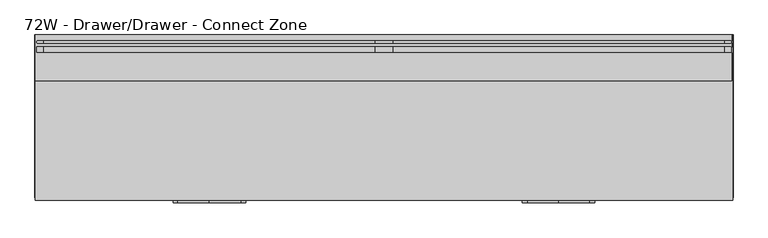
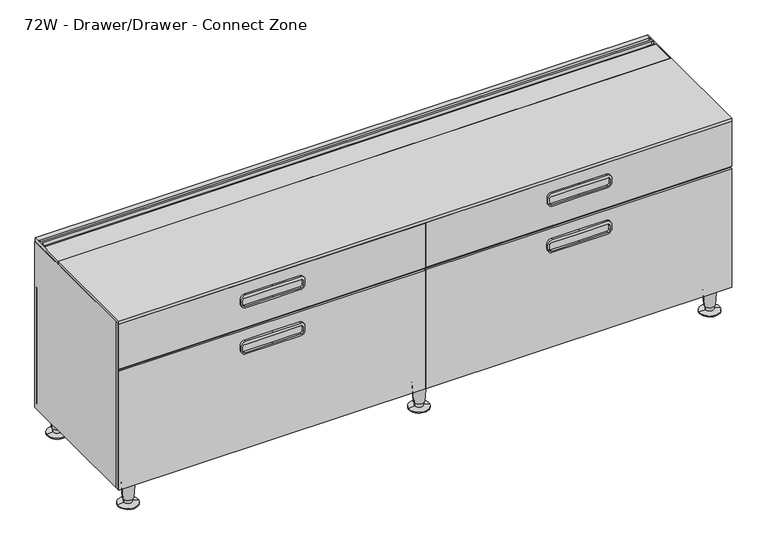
"""IFC4 building model written with IfcOpenShell, lengths in millimetres: furniture geometry, Steelcase - C Scape - Low Storage - 1.5 High - 60W and 72W : 72W - Drawer/Drawer - Connect Zone."""

from ifc_helpers import new_model, si_unit, point, frame, frame_2d, origin, place, context, project, spatial, polyline, circle_curve, trimmed, segment, composite_curve, outline, extrude, faceted_brep, source, transform, mapped, element, save
from ifc_brep_helpers import plane_surface, cylinder_surface, revolved_surface, advanced_brep


def furniture_72w_drawer_drawer_connect_zone_5f02e752(model_context):
    return source(origin(), model_context, "Body", "SolidModel", [
        advanced_brep(
        [(-302.0173728, -29.5783496, 599.4426137), (-302.0173728, -29.5783496, 458.7801967), (-302.0173728, -9.5194193, 458.7801967), (-302.0173728, -9.5194193, 466.2604814), (-302.0173728, 0.0055807, 466.2604814), (-302.0173728, 0.0055807, 599.4426137), (-302.0173728, -17.0388453, 599.4426137), (-302.0173728, -17.0388453, 609.5926846), (-302.0173728, -20.5059237, 609.5926846), (-302.0173728, -20.5059237, 599.4426137), (-302.0173728, -46.4703418, 599.4426137), (-302.0173728, -32.0458511, 599.4426137), (-302.0173728, -32.0458511, 609.5926846), (-302.0173728, -46.4703418, 609.5926846), (-304.8013237, -120.6444193, 599.4426137), (-304.8013237, -120.6444193, 609.5926846), (-304.8013237, 0.0055807, 609.5926846), (-304.8013237, 0.0055807, 466.2604814), (-304.8013237, -9.5194193, 466.2604814), (-304.8013237, -9.5194193, 458.7801967), (-304.8013237, -29.5783496, 458.7801967), (-304.8013237, -29.5783496, 599.4426137), (-299.2329352, -23.2903613, 599.4426137), (1516.9507358, -23.2903613, 599.4426137), (1519.9272317, -20.3138654, 599.4426137), (1519.9473728, -32.274699, 599.4426137), (1517.2308823, -29.5783496, 599.4426137), (-299.5498713, -29.5783496, 599.4426137), (1519.9473728, -46.4703418, 599.4426137), (1519.9473728, -120.5681445, 599.4426137), (-299.3205978, -14.3420703, 599.4426137), (1519.9473728, 0.0, 599.4426137), (1519.9473728, -17.0388453, 599.4426137), (1517.2505978, -14.3420703, 599.4426137), (1519.9473728, 0.0055807, 609.5926846), (1519.9473728, -120.5681445, 609.5926846), (1519.9473728, -46.4703418, 609.5926846), (-299.5498713, -29.5783496, 609.5926846), (1517.2308823, -29.5783496, 609.5926846), (1519.9272317, -32.274699, 609.5926846), (1519.9473728, -20.3138654, 609.5926846), (1516.9507358, -23.2903613, 609.5926846), (-299.2329352, -23.2903613, 609.5926846), (-299.3205978, -14.3420703, 609.5926846), (1517.2505978, -14.3420703, 609.5926846), (1519.9473728, -17.0388453, 609.5926846)],
        [
            (0, 1),
            (1, 2),
            (2, 3),
            (3, 4),
            (4, 5),
            (5, 6),
            (6, 7),
            (7, 8),
            (8, 9),
            (9, 0),
            (10, 11),
            (11, 12),
            (12, 13),
            (13, 10),
            (14, 15),
            (15, 16),
            (16, 17),
            (17, 18),
            (18, 19),
            (19, 20),
            (20, 21),
            (21, 14),
            (21, 0),
            (9, 22, circle_curve(frame((-299.2329352, -20.5059237, 599.4426137), z_axis=(0.0, 0.0, 1.0), x_axis=(1.0, 0.0, 0.0)), 2.7844376)),
            (22, 23),
            (23, 24, circle_curve(frame((1516.9507358, -20.3138654, 599.4426137), z_axis=(0.0, 0.0, 1.0), x_axis=(1.0, 0.0, 0.0)), 2.9764959)),
            (24, 25),
            (25, 26, circle_curve(frame((1517.2308823, -32.274699, 599.4426137), z_axis=(0.0, 0.0, 1.0), x_axis=(1.0, 0.0, 0.0)), 2.6963494)),
            (26, 27),
            (27, 11, circle_curve(frame((-299.5498713, -32.0458511, 599.4426137), z_axis=(0.0, 0.0, 1.0), x_axis=(1.0, 0.0, 0.0)), 2.4675015)),
            (10, 28),
            (28, 29),
            (29, 14),
            (30, 6, circle_curve(frame((-299.3205978, -17.0388453, 599.4426137), z_axis=(0.0, 0.0, 1.0), x_axis=(1.0, 0.0, 0.0)), 2.696775)),
            (5, 31),
            (31, 32),
            (32, 33, circle_curve(frame((1517.2505978, -17.0388453, 599.4426137), z_axis=(0.0, 0.0, 1.0), x_axis=(1.0, 0.0, 0.0)), 2.696775)),
            (33, 30),
            (20, 1),
            (19, 2),
            (18, 3),
            (17, 4),
            (16, 34),
            (34, 31),
            (15, 35),
            (35, 36),
            (36, 13),
            (12, 37, circle_curve(frame((-299.5498713, -32.0458511, 609.5926846), z_axis=(0.0, 0.0, -1.0), x_axis=(1.0, 0.0, 0.0)), 2.4675015)),
            (37, 38),
            (38, 39, circle_curve(frame((1517.2308823, -32.274699, 609.5926846), z_axis=(0.0, 0.0, -1.0), x_axis=(1.0, 0.0, 0.0)), 2.6963494)),
            (39, 40),
            (40, 41, circle_curve(frame((1516.9507358, -20.3138654, 609.5926846), z_axis=(0.0, 0.0, -1.0), x_axis=(1.0, 0.0, 0.0)), 2.9764959)),
            (41, 42),
            (42, 8, circle_curve(frame((-299.2329352, -20.5059237, 609.5926846), z_axis=(0.0, 0.0, -1.0), x_axis=(1.0, 0.0, 0.0)), 2.7844376)),
            (7, 43, circle_curve(frame((-299.3205978, -17.0388453, 609.5926846), z_axis=(0.0, 0.0, -1.0), x_axis=(1.0, 0.0, 0.0)), 2.696775)),
            (43, 44),
            (44, 45, circle_curve(frame((1517.2505978, -17.0388453, 609.5926846), z_axis=(0.0, 0.0, -1.0), x_axis=(1.0, 0.0, 0.0)), 2.696775)),
            (45, 34),
            (29, 35),
            (38, 26),
            (25, 39),
            (24, 40),
            (23, 41),
            (22, 42),
            (27, 37),
            (36, 28),
            (43, 30),
            (33, 44),
            (32, 45),
        ],
        [
            plane_surface(frame((-302.0173728, -120.6444193, 599.4426137), z_axis=(1.0, 0.0, 0.0), x_axis=(0.0, 1.0, 0.0))),
            plane_surface(frame((-304.8013237, -120.6444193, 599.4426137), z_axis=(-1.0, 0.0, 0.0), x_axis=(0.0, -1.0, 0.0))),
            plane_surface(frame((-302.0173728, -120.6444193, 599.4426137), z_axis=(0.0, 0.0, -1.0), x_axis=(-1.0, 0.0, 0.0))),
            plane_surface(frame((-302.0173728, -29.5783496, 599.4426137), z_axis=(0.0, -1.0, 0.0), x_axis=(-1.0, 0.0, 0.0))),
            plane_surface(frame((-302.0173728, -29.5783496, 458.7801967), z_axis=(0.0, 0.0, -1.0), x_axis=(-1.0, 0.0, 0.0))),
            plane_surface(frame((-302.0173728, -9.5194193, 458.7801967), z_axis=(0.0, 1.0, 0.0), x_axis=(-1.0, 0.0, 0.0))),
            plane_surface(frame((-302.0173728, -9.5194193, 466.2604814), z_axis=(0.0, 0.0, -1.0), x_axis=(-1.0, 0.0, 0.0))),
            plane_surface(frame((-302.0173728, 0.0055807, 466.2604814), z_axis=(0.0, 1.0, 0.0), x_axis=(-1.0, 0.0, 0.0))),
            plane_surface(frame((-302.0173728, 0.0055807, 609.5926846), z_axis=(0.0, 0.0, 1.0), x_axis=(-1.0, 0.0, 0.0))),
            plane_surface(frame((-302.0173728, -120.6444193, 609.5926846), z_axis=(0.0, -1.0, 0.0), x_axis=(-1.0, 0.0, 0.0))),
            revolved_surface(polyline([(1519.9272317, -32.274699, 599.4426137), (1519.9272317, -32.274699, 609.5926846)]), (1517.2308823, -32.274699, 599.4426137), (0.0, 0.0, -1.0)),
            plane_surface(frame((1519.9473728, -32.274699, 609.5926846), z_axis=(1.0, 0.0, 0.0), x_axis=(0.0, 0.0, -1.0))),
            revolved_surface(polyline([(1519.9272317, -20.3138654, 599.4426137), (1519.9272317, -20.3138654, 609.5926846)]), (1516.9507358, -20.3138654, 599.4426137), (0.0, 0.0, -1.0)),
            plane_surface(frame((1516.9507358, -23.2903613, 609.5926846), z_axis=(0.0, 1.0, 0.0), x_axis=(0.0, 0.0, -1.0))),
            revolved_surface(polyline([(-296.4484976, -20.5059237, 599.4426137), (-296.4484976, -20.5059237, 609.5926846)]), (-299.2329352, -20.5059237, 599.4426137), (0.0, 0.0, -1.0)),
            revolved_surface(polyline([(-297.0823698, -32.0458511, 599.4426137), (-297.0823698, -32.0458511, 609.5926846)]), (-299.5498713, -32.0458511, 599.4426137), (0.0, 0.0, -1.0)),
            plane_surface(frame((-299.5498713, -29.5783496, 609.5926846), z_axis=(0.0, -1.0, 0.0), x_axis=(0.0, 0.0, -1.0))),
            plane_surface(frame((1519.9473728, -46.4703418, 609.5926846), z_axis=(0.0, 1.0, 0.0), x_axis=(0.0, 0.0, -1.0))),
            plane_surface(frame((1519.9473728, -120.5681445, 609.5926846), z_axis=(1.0, 0.0, 0.0), x_axis=(0.0, 0.0, -1.0))),
            plane_surface(frame((-299.3205978, -14.3420703, 609.5926846), z_axis=(0.0, -1.0, 0.0), x_axis=(0.0, 0.0, -1.0))),
            revolved_surface(polyline([(1519.9473727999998, -17.0388453, 599.4426137), (1519.9473727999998, -17.0388453, 609.5926846)]), (1517.2505978, -17.0388453, 41.6222656), (0.0, 0.0, -1.0)),
            plane_surface(frame((1519.9473728, -17.0388453, 609.5926846), z_axis=(1.0, 0.0, 0.0), x_axis=(0.0, 0.0, -1.0))),
            revolved_surface(polyline([(-296.62382279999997, -17.0388453, 599.4426137), (-296.62382279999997, -17.0388453, 609.5926846)]), (-299.3205978, -17.0388453, 41.6222656), (0.0, 0.0, -1.0)),
        ],
        [
            (0, [[1, 2, 3, 4, 5, 6, 7, 8, 9, 10]]),
            (0, [[11, 12, 13, 14]]),
            (1, [[15, 16, 17, 18, 19, 20, 21, 22]]),
            (2, [[-22, 23, -10, 24, 25, 26, 27, 28, 29, 30, -11, 31, 32, 33]]),
            (2, [[34, -6, 35, 36, 37, 38]]),
            (3, [[-1, -23, -21, 39]]),
            (4, [[-2, -39, -20, 40]]),
            (5, [[-3, -40, -19, 41]]),
            (6, [[-4, -41, -18, 42]]),
            (7, [[-17, 43, 44, -35, -5, -42]]),
            (8, [[-43, -16, 45, 46, 47, -13, 48, 49, 50, 51, 52, 53, 54, -8, 55, 56, 57, 58]]),
            (9, [[-45, -15, -33, 59]]),
            (10, [[-50, 60, -28, 61]]),
            (11, [[-51, -61, -27, 62]]),
            (12, [[-52, -62, -26, 63]]),
            (13, [[-53, -63, -25, 64]]),
            (14, [[-54, -64, -24, -9]]),
            (15, [[-48, -12, -30, 65]]),
            (16, [[-49, -65, -29, -60]]),
            (17, [[-47, 66, -31, -14]]),
            (18, [[-46, -59, -32, -66]]),
            (19, [[-56, 67, -38, 68]]),
            (20, [[-57, -68, -37, 69]]),
            (21, [[-58, -69, -36, -44]]),
            (22, [[-55, -7, -34, -67]]),
        ],
    ),
        extrude(outline(polyline([(458.7240097, 724.5950189), (432.6382043, 724.5950189), (432.6382043, 602.2975), (432.6382043, 493.3349811), (458.7240097, 493.3349811), (458.7240097, -304.8013237), (92.7100024, -304.8013237), (92.7100024, 1522.73), (458.7240097, 1522.73), (458.7240097, 724.5950189)])), frame((0.0, -9.5194193, 0.0), z_axis=(0.0, 1.0, 0.0), x_axis=(0.0, 0.0, 1.0)), (0.0, 0.0, 1.0), 9.525),
        extrude(outline(polyline([(-120.6444193, 609.6), (-120.6444193, 450.8499879), (-126.9863574, 450.8499879), (-126.9863574, 599.4499291), (-433.07, 599.4499291), (-433.07, 609.6), (-120.6444193, 609.6)])), frame((-304.8013237, 0.0, 0.0), z_axis=(1.0, 0.0, 0.0), x_axis=(0.0, 1.0, 0.0)), (0.0, 0.0, 1.0), 1827.5313237),
        extrude(outline(polyline([(-120.6444193, 599.4426137), (-120.6444193, 609.5926846), (0.0055807, 609.5926846), (0.0055807, 466.2604814), (-9.5194193, 466.2604814), (-9.5194193, 458.7801967), (-29.5783496, 458.7801967), (-29.5783496, 599.4426137), (-120.6444193, 599.4426137)])), frame((1519.9473728, 0.0, 0.0), z_axis=(1.0, 0.0, 0.0), x_axis=(0.0, 1.0, 0.0)), (0.0, 0.0, 1.0), 2.7826272),
        extrude(outline(polyline([(76.1508625, -305.435), (76.1508625, 1523.365), (599.4400097, 1523.365), (599.4400097, 609.532594), (599.4400097, -305.435), (76.1508625, -305.435)]), holes=[polyline([(92.7100024, 600.0410976), (92.7100024, -283.4617676), (436.8800097, -283.4617676), (436.8800097, 600.0410976), (92.7100024, 600.0410976)]), polyline([(588.9625, -283.4617676), (588.9625, 600.0410976), (458.7240097, 600.0410976), (458.7240097, -283.4617676), (588.9625, -283.4617676)]), polyline([(436.8800097, 617.8889024), (436.8800097, 1501.3917676), (92.7100024, 1501.3917676), (92.7100024, 617.8889024), (436.8800097, 617.8889024)]), polyline([(588.9625, 1501.3917676), (458.7240097, 1501.3917676), (458.7240097, 617.8889024), (588.9625, 617.8889024), (588.9625, 1501.3917676)])]), frame((0.0, -426.7186111, 0.0), z_axis=(0.0, 1.0, 0.0), x_axis=(0.0, 0.0, 1.0)), (0.0, 0.0, 1.0), 7.3648883),
        extrude(outline(polyline([(1523.365, 0.0), (1523.365, -419.3537227), (1501.3917676, -419.3537227), (1501.3917676, 0.0), (1523.365, 0.0)])), frame((0.0, 0.0, 76.2), z_axis=(0.0, 0.0, 1.0), x_axis=(1.0, 0.0, 0.0)), (0.0, 0.0, 1.0), 523.2400097),
        extrude(outline(polyline([(-283.4630912, -419.3537227), (-305.435, -419.3537227), (-305.435, 0.0), (-283.4630912, 0.0), (-283.4630912, -419.3537227)])), frame((0.0, 0.0, 76.2), z_axis=(0.0, 0.0, 1.0), x_axis=(1.0, 0.0, 0.0)), (0.0, 0.0, 1.0), 523.2400097),
        extrude(outline(polyline([(586.4224874, -415.2912402), (586.4224874, -9.525), (631.5075126, -9.525), (631.5075126, -415.2912402), (586.4224874, -415.2912402)])), frame((0.0, 0.0, 76.2), z_axis=(0.0, 0.0, 1.0), x_axis=(1.0, 0.0, 0.0)), (0.0, 0.0, 1.0), 523.2400097),
        extrude(outline(polyline([(631.5075126, -9.525), (1501.3917676, -9.525), (1501.3917676, -415.2912402), (631.5075126, -415.2912402), (631.5075126, -9.525)])), frame((0.0, 0.0, 436.8800097), z_axis=(0.0, 0.0, 1.0), x_axis=(1.0, 0.0, 0.0)), (0.0, 0.0, 1.0), 21.844),
        extrude(outline(polyline([(586.4224874, -415.2912402), (-283.4617676, -415.2912402), (-283.4617676, -9.525), (586.4224874, -9.525), (586.4224874, -415.2912402)])), frame((0.0, 0.0, 436.8800097), z_axis=(0.0, 0.0, 1.0), x_axis=(1.0, 0.0, 0.0)), (0.0, 0.0, 1.0), 21.844),
        extrude(outline(composite_curve([segment(polyline([(419.0999879, 233.6804108), (419.0999879, 151.447655), (419.0999879, 69.2148993)]), True, "CONTINUOUS"), segment(trimmed(circle_curve(frame_2d((406.3999879, 69.2148993)), 12.7), [point((419.0999879, 69.2148993))], [point((406.3999879, 56.5148993))], False, "CARTESIAN"), True, "CONTINUOUS"), segment(polyline([(406.3999879, 56.5148993), (391.795017, 56.5148993)]), True, "CONTINUOUS"), segment(trimmed(circle_curve(frame_2d((391.795017, 69.2148993)), 12.7), [point((391.795017, 56.5148993))], [point((379.095017, 69.2148993))], False, "CARTESIAN"), True, "CONTINUOUS"), segment(polyline([(379.095017, 69.2148993), (379.095017, 151.447655), (379.095017, 233.6804108)]), True, "CONTINUOUS"), segment(trimmed(circle_curve(frame_2d((391.795017, 233.6804108)), 12.7), [point((379.095017, 233.6804108))], [point((391.795017, 246.3804108))], False, "CARTESIAN"), True, "CONTINUOUS"), segment(polyline([(391.795017, 246.3804108), (406.3999879, 246.3804108)]), True, "CONTINUOUS"), segment(trimmed(circle_curve(frame_2d((406.3999879, 233.6804108)), 12.7), [point((406.3999879, 246.3804108))], [point((419.0999879, 233.6804108))], False, "CARTESIAN"), True, "CONTINUOUS")], self_intersect=False), holes=[composite_curve([segment(polyline([(402.9710063, 241.5527985), (390.2709942, 241.5527985)]), True, "CONTINUOUS"), segment(trimmed(circle_curve(frame_2d((390.2709942, 235.2027985)), 6.35), [point((390.2709942, 241.5527985))], [point((383.9209942, 235.2027985))], True, "CARTESIAN"), True, "CONTINUOUS"), segment(polyline([(383.9209942, 235.2027985), (383.9209942, 151.447655), (383.9209942, 67.6925116)]), True, "CONTINUOUS"), segment(trimmed(circle_curve(frame_2d((390.2709942, 67.6925116)), 6.35), [point((383.9209942, 67.6925116))], [point((390.2709942, 61.3425116))], True, "CARTESIAN"), True, "CONTINUOUS"), segment(polyline([(390.2709942, 61.3425116), (402.9710063, 61.3425116)]), True, "CONTINUOUS"), segment(trimmed(circle_curve(frame_2d((402.9710063, 67.6925116)), 6.35), [point((402.9710063, 61.3425116))], [point((409.3210063, 67.6925116))], True, "CARTESIAN"), True, "CONTINUOUS"), segment(polyline([(409.3210063, 67.6925116), (409.3210063, 151.447655), (409.3210063, 235.2027985)]), True, "CONTINUOUS"), segment(trimmed(circle_curve(frame_2d((402.9710063, 235.2027985)), 6.35), [point((409.3210063, 235.2027985))], [point((402.9710063, 241.5527985))], True, "CARTESIAN"), True, "CONTINUOUS")], self_intersect=False)]), frame((0.0, -439.42, 0.0), z_axis=(0.0, 1.0, 0.0), x_axis=(0.0, 0.0, 1.0)), (0.0, 0.0, 1.0), 6.35),
        extrude(outline(composite_curve([segment(trimmed(circle_curve(frame_2d((406.3999879, 983.9320892)), 12.7), [point((419.0999879, 983.9320892))], [point((406.3999879, 971.2320892))], False, "CARTESIAN"), True, "CONTINUOUS"), segment(polyline([(406.3999879, 971.2320892), (391.795017, 971.2320892)]), True, "CONTINUOUS"), segment(trimmed(circle_curve(frame_2d((391.795017, 983.9320892)), 12.7), [point((391.795017, 971.2320892))], [point((379.095017, 983.9320892))], False, "CARTESIAN"), True, "CONTINUOUS"), segment(polyline([(379.095017, 983.9320892), (379.095017, 1066.164845), (379.095017, 1148.3976007)]), True, "CONTINUOUS"), segment(trimmed(circle_curve(frame_2d((391.795017, 1148.3976007)), 12.7), [point((379.095017, 1148.3976007))], [point((391.795017, 1161.0976007))], False, "CARTESIAN"), True, "CONTINUOUS"), segment(polyline([(391.795017, 1161.0976007), (406.3999879, 1161.0976007)]), True, "CONTINUOUS"), segment(trimmed(circle_curve(frame_2d((406.3999879, 1148.3976007)), 12.7), [point((406.3999879, 1161.0976007))], [point((419.0999879, 1148.3976007))], False, "CARTESIAN"), True, "CONTINUOUS"), segment(polyline([(419.0999879, 1148.3976007), (419.0999879, 1066.164845), (419.0999879, 983.9320892)]), True, "CONTINUOUS")], self_intersect=False), holes=[composite_curve([segment(trimmed(circle_curve(frame_2d((402.9710063, 982.4097015)), 6.35), [point((402.9710063, 976.0597015))], [point((409.3210063, 982.4097015))], True, "CARTESIAN"), True, "CONTINUOUS"), segment(polyline([(409.3210063, 982.4097015), (409.3210063, 1066.164845), (409.3210063, 1149.9199884)]), True, "CONTINUOUS"), segment(trimmed(circle_curve(frame_2d((402.9710063, 1149.9199884)), 6.35), [point((409.3210063, 1149.9199884))], [point((402.9710063, 1156.2699884))], True, "CARTESIAN"), True, "CONTINUOUS"), segment(polyline([(402.9710063, 1156.2699884), (390.2709942, 1156.2699884)]), True, "CONTINUOUS"), segment(trimmed(circle_curve(frame_2d((390.2709942, 1149.9199884)), 6.35), [point((390.2709942, 1156.2699884))], [point((383.9209942, 1149.9199884))], True, "CARTESIAN"), True, "CONTINUOUS"), segment(polyline([(383.9209942, 1149.9199884), (383.9209942, 1066.164845), (383.9209942, 982.4097015)]), True, "CONTINUOUS"), segment(trimmed(circle_curve(frame_2d((390.2709942, 982.4097015)), 6.35), [point((383.9209942, 982.4097015))], [point((390.2709942, 976.0597015))], True, "CARTESIAN"), True, "CONTINUOUS"), segment(polyline([(390.2709942, 976.0597015), (402.9710063, 976.0597015)]), True, "CONTINUOUS")], self_intersect=False)]), frame((0.0, -439.42, 0.0), z_axis=(0.0, 1.0, 0.0), x_axis=(0.0, 0.0, 1.0)), (0.0, 0.0, 1.0), 6.35),
        extrude(outline(polyline([(608.3303101, -426.7186111), (608.3303101, -433.07), (-304.8, -433.07), (-304.8, -426.7186111), (608.3303101, -426.7186111)])), frame((0.0, 0.0, 458.7240097), z_axis=(0.0, 0.0, 1.0), x_axis=(1.0, 0.0, 0.0)), (0.0, 0.0, 1.0), 140.716),
        extrude(outline(polyline([(609.5996899, -426.7186111), (1522.73, -426.7186111), (1522.73, -433.07), (609.5996899, -433.07), (609.5996899, -426.7186111)])), frame((0.0, 0.0, 458.7240097), z_axis=(0.0, 0.0, 1.0), x_axis=(1.0, 0.0, 0.0)), (0.0, 0.0, 1.0), 140.716),
        faceted_brep([(-283.4617676, -419.3537227, 92.7100024), (1501.3917676, -419.3537227, 92.7100024), (1501.3917676, -9.525, 92.7100024), (631.5075126, -9.525, 92.7100024), (631.5075126, -415.2912402, 92.7100024), (586.4224874, -415.2912402, 92.7100024), (586.4224874, -9.525, 92.7100024), (-283.4617676, -9.525, 92.7100024), (1523.365, 0.0, 76.2), (1523.365, -419.3537227, 76.2), (-305.435, -419.3537227, 76.2), (-305.435, 0.0, 76.2), (-283.4630912, -419.3537227, 599.4400097), (-305.435, -419.3537227, 599.4400097), (1523.365, -419.3537227, 599.4400097), (1501.3917676, -419.3537227, 599.4400097), (-305.435, 0.0, 599.4400097), (1523.365, 0.0, 599.4400097), (-283.4630912, -9.525, 599.4400097), (586.4224874, -9.525, 599.4400097), (586.4224874, -415.2912402, 599.4400097), (631.5075126, -415.2912402, 599.4400097), (631.5075126, -9.525, 599.4400097), (1501.3917676, -9.525, 599.4400097)], [[[0, 1, 2, 3, 4, 5, 6, 7]], [[8, 9, 10, 11]], [[1, 0, 12, 13, 10, 9, 14, 15]], [[8, 11, 16, 17]], [[16, 13, 12, 18, 19, 20, 21, 22, 23, 15, 14, 17]], [[13, 16, 11, 10]], [[18, 12, 0, 7]], [[19, 18, 7, 6]], [[20, 19, 6, 5]], [[22, 21, 4, 3]], [[23, 22, 3, 2]], [[15, 23, 2, 1]], [[17, 14, 9, 8]], [[21, 20, 5, 4]]]),
        extrude(outline(composite_curve([segment(polyline([(565.1499879, 233.6804108), (565.1499879, 151.447655), (565.1499879, 69.2148993)]), True, "CONTINUOUS"), segment(trimmed(circle_curve(frame_2d((552.4499879, 69.2148993)), 12.7), [point((565.1499879, 69.2148993))], [point((552.4499879, 56.5148993))], False, "CARTESIAN"), True, "CONTINUOUS"), segment(polyline([(552.4499879, 56.5148993), (537.845017, 56.5148993)]), True, "CONTINUOUS"), segment(trimmed(circle_curve(frame_2d((537.845017, 69.2148993)), 12.7), [point((537.845017, 56.5148993))], [point((525.145017, 69.2148993))], False, "CARTESIAN"), True, "CONTINUOUS"), segment(polyline([(525.145017, 69.2148993), (525.145017, 151.447655), (525.145017, 233.6804108)]), True, "CONTINUOUS"), segment(trimmed(circle_curve(frame_2d((537.845017, 233.6804108)), 12.7), [point((525.145017, 233.6804108))], [point((537.845017, 246.3804108))], False, "CARTESIAN"), True, "CONTINUOUS"), segment(polyline([(537.845017, 246.3804108), (552.4499879, 246.3804108)]), True, "CONTINUOUS"), segment(trimmed(circle_curve(frame_2d((552.4499879, 233.6804108)), 12.7), [point((552.4499879, 246.3804108))], [point((565.1499879, 233.6804108))], False, "CARTESIAN"), True, "CONTINUOUS")], self_intersect=False), holes=[composite_curve([segment(polyline([(549.0210063, 241.5527985), (536.3209942, 241.5527985)]), True, "CONTINUOUS"), segment(trimmed(circle_curve(frame_2d((536.3209942, 235.2027985)), 6.35), [point((536.3209942, 241.5527985))], [point((529.9709942, 235.2027985))], True, "CARTESIAN"), True, "CONTINUOUS"), segment(polyline([(529.9709942, 235.2027985), (529.9709942, 151.447655), (529.9709942, 67.6925116)]), True, "CONTINUOUS"), segment(trimmed(circle_curve(frame_2d((536.3209942, 67.6925116)), 6.35), [point((529.9709942, 67.6925116))], [point((536.3209942, 61.3425116))], True, "CARTESIAN"), True, "CONTINUOUS"), segment(polyline([(536.3209942, 61.3425116), (549.0210063, 61.3425116)]), True, "CONTINUOUS"), segment(trimmed(circle_curve(frame_2d((549.0210063, 67.6925116)), 6.35), [point((549.0210063, 61.3425116))], [point((555.3710063, 67.6925116))], True, "CARTESIAN"), True, "CONTINUOUS"), segment(polyline([(555.3710063, 67.6925116), (555.3710063, 151.447655), (555.3710063, 235.2027985)]), True, "CONTINUOUS"), segment(trimmed(circle_curve(frame_2d((549.0210063, 235.2027985)), 6.35), [point((555.3710063, 235.2027985))], [point((549.0210063, 241.5527985))], True, "CARTESIAN"), True, "CONTINUOUS")], self_intersect=False)]), frame((0.0, -439.42, 0.0), z_axis=(0.0, 1.0, 0.0), x_axis=(0.0, 0.0, 1.0)), (0.0, 0.0, 1.0), 6.35),
        extrude(outline(polyline([(608.3303101, -426.7186111), (608.3303101, -433.07), (-304.8, -433.07), (-304.8, -426.7186111), (608.3303101, -426.7186111)])), frame((0.0, 0.0, 76.2), z_axis=(0.0, 0.0, 1.0), x_axis=(1.0, 0.0, 0.0)), (0.0, 0.0, 1.0), 374.6500097),
        advanced_brep(
        [(579.8539515, -29.9489775, 0.0), (638.0760485, -38.8569507, 0.0), (608.965, -34.4029641, 0.0), (579.8539515, -29.9489775, 2.5119506), (638.0760485, -38.8569507, 2.5119506), (597.202835, -32.6033544, 5.7545598), (620.727165, -36.2025738, 5.7545598), (596.5140655, -32.4979728, 19.05), (621.4159345, -36.3079555, 19.05), (594.0844786, -32.1262463, 19.05), (623.8455214, -36.6796819, 19.05), (590.1341305, -31.5218435, 76.2), (627.7958695, -37.2840847, 76.2), (608.965, -34.4029641, 76.2)],
        [
            (0, 1, circle_curve(frame((608.965, -34.4029641, 0.0), z_axis=(0.0, 0.0, -1.0), x_axis=(0.0, -1.0, 0.0)), 29.4498071)),
            (1, 2),
            (2, 0),
            (1, 0, circle_curve(frame((608.965, -34.4029641, 0.0), z_axis=(0.0, 0.0, -1.0), x_axis=(0.0, -1.0, 0.0)), 29.4498071)),
            (3, 4, circle_curve(frame((608.965, -34.4029641, 2.5119506), z_axis=(0.0, 0.0, -1.0), x_axis=(0.0, -1.0, 0.0)), 29.4498071)),
            (4, 1),
            (0, 3),
            (4, 3, circle_curve(frame((608.965, -34.4029641, 2.5119506), z_axis=(0.0, 0.0, -1.0), x_axis=(0.0, -1.0, 0.0)), 29.4498071)),
            (5, 6, circle_curve(frame((608.965, -34.4029641, 5.7545598), z_axis=(0.0, 0.0, -1.0), x_axis=(0.0, -1.0, 0.0)), 11.8990387)),
            (6, 4),
            (3, 5),
            (6, 5, circle_curve(frame((608.965, -34.4029641, 5.7545598), z_axis=(0.0, 0.0, -1.0), x_axis=(0.0, -1.0, 0.0)), 11.8990387)),
            (7, 8, circle_curve(frame((608.965, -34.4029641, 19.05), z_axis=(0.0, 0.0, -1.0), x_axis=(0.0, -1.0, 0.0)), 12.5958232)),
            (8, 6),
            (5, 7),
            (8, 7, circle_curve(frame((608.965, -34.4029641, 19.05), z_axis=(0.0, 0.0, -1.0), x_axis=(0.0, -1.0, 0.0)), 12.5958232)),
            (9, 10, circle_curve(frame((608.965, -34.4029641, 19.05), z_axis=(0.0, 0.0, -1.0), x_axis=(0.0, -1.0, 0.0)), 15.0536827)),
            (10, 8),
            (7, 9),
            (10, 9, circle_curve(frame((608.965, -34.4029641, 19.05), z_axis=(0.0, 0.0, -1.0), x_axis=(0.0, -1.0, 0.0)), 15.0536827)),
            (11, 12, circle_curve(frame((608.965, -34.4029641, 76.2), z_axis=(0.0, 0.0, -1.0), x_axis=(0.0, -1.0, 0.0)), 19.05)),
            (12, 10),
            (9, 11),
            (12, 11, circle_curve(frame((608.965, -34.4029641, 76.2), z_axis=(0.0, 0.0, -1.0), x_axis=(0.0, -1.0, 0.0)), 19.05)),
            (13, 12),
            (11, 13),
        ],
        [
            plane_surface(frame((608.965, -34.4029641, 0.0), z_axis=(0.0, 0.0, -1.0), x_axis=(0.0, -1.0, 0.0))),
            cylinder_surface(frame((608.965, -34.4029641, 25.4), z_axis=(0.0, 0.0, 1.0), x_axis=(0.0, -1.0, 0.0)), 29.4498071),
            revolved_surface(polyline([(608.965, -63.8527712, 2.5119506), (608.965, -46.3020028, 5.7545598)]), (608.965, -34.4029641, 25.4), (0.0, 0.0, 1.0)),
            revolved_surface(polyline([(608.965, -46.3020028, 5.7545598), (608.965, -46.9987873, 19.05)]), (608.965, -34.4029641, 25.4), (0.0, 0.0, 1.0)),
            plane_surface(frame((608.965, -34.4029641, 19.05), z_axis=(0.0, 0.0, -1.0), x_axis=(0.0, -1.0, 0.0))),
            revolved_surface(polyline([(608.965, -49.4566468, 19.05), (608.965, -53.4529641, 76.2)]), (608.965, -34.4029641, 25.4), (0.0, 0.0, 1.0)),
            plane_surface(frame((608.965, -34.4029641, 76.2), z_axis=(0.0, 0.0, 1.0), x_axis=(0.0, -1.0, 0.0))),
        ],
        [
            (0, [[1, 2, 3]]),
            (0, [[4, -3, -2]]),
            (1, [[5, 6, -1, 7]]),
            (1, [[8, -7, -4, -6]]),
            (2, [[9, 10, -5, 11]]),
            (2, [[12, -11, -8, -10]]),
            (3, [[13, 14, -9, 15]]),
            (3, [[16, -15, -12, -14]]),
            (4, [[17, 18, -13, 19]]),
            (4, [[20, -19, -16, -18]]),
            (5, [[21, 22, -17, 23]]),
            (5, [[24, -23, -20, -22]]),
            (6, [[25, -21, 26]]),
            (6, [[-26, -24, -25]]),
        ],
    ),
        advanced_brep(
        [(579.8539515, -395.5974102, 0.0), (638.0760485, -404.5053834, 0.0), (608.965, -400.0513968, 0.0), (579.8539515, -395.5974102, 2.5119506), (638.0760485, -404.5053834, 2.5119506), (597.202835, -398.2517871, 5.7545598), (620.727165, -401.8510065, 5.7545598), (596.5140655, -398.1464055, 19.05), (621.4159345, -401.9563882, 19.05), (594.0844786, -397.774679, 19.05), (623.8455214, -402.3281146, 19.05), (590.1341305, -397.1702762, 76.2), (627.7958695, -402.9325174, 76.2), (608.965, -400.0513968, 76.2)],
        [
            (0, 1, circle_curve(frame((608.965, -400.0513968, 0.0), z_axis=(0.0, 0.0, -1.0), x_axis=(0.0, -1.0, 0.0)), 29.4498071)),
            (1, 2),
            (2, 0),
            (1, 0, circle_curve(frame((608.965, -400.0513968, 0.0), z_axis=(0.0, 0.0, -1.0), x_axis=(0.0, -1.0, 0.0)), 29.4498071)),
            (3, 4, circle_curve(frame((608.965, -400.0513968, 2.5119506), z_axis=(0.0, 0.0, -1.0), x_axis=(0.0, -1.0, 0.0)), 29.4498071)),
            (4, 1),
            (0, 3),
            (4, 3, circle_curve(frame((608.965, -400.0513968, 2.5119506), z_axis=(0.0, 0.0, -1.0), x_axis=(0.0, -1.0, 0.0)), 29.4498071)),
            (5, 6, circle_curve(frame((608.965, -400.0513968, 5.7545598), z_axis=(0.0, 0.0, -1.0), x_axis=(0.0, -1.0, 0.0)), 11.8990387)),
            (6, 4),
            (3, 5),
            (6, 5, circle_curve(frame((608.965, -400.0513968, 5.7545598), z_axis=(0.0, 0.0, -1.0), x_axis=(0.0, -1.0, 0.0)), 11.8990387)),
            (7, 8, circle_curve(frame((608.965, -400.0513968, 19.05), z_axis=(0.0, 0.0, -1.0), x_axis=(0.0, -1.0, 0.0)), 12.5958232)),
            (8, 6),
            (5, 7),
            (8, 7, circle_curve(frame((608.965, -400.0513968, 19.05), z_axis=(0.0, 0.0, -1.0), x_axis=(0.0, -1.0, 0.0)), 12.5958232)),
            (9, 10, circle_curve(frame((608.965, -400.0513968, 19.05), z_axis=(0.0, 0.0, -1.0), x_axis=(0.0, -1.0, 0.0)), 15.0536827)),
            (10, 8),
            (7, 9),
            (10, 9, circle_curve(frame((608.965, -400.0513968, 19.05), z_axis=(0.0, 0.0, -1.0), x_axis=(0.0, -1.0, 0.0)), 15.0536827)),
            (11, 12, circle_curve(frame((608.965, -400.0513968, 76.2), z_axis=(0.0, 0.0, -1.0), x_axis=(0.0, -1.0, 0.0)), 19.05)),
            (12, 10),
            (9, 11),
            (12, 11, circle_curve(frame((608.965, -400.0513968, 76.2), z_axis=(0.0, 0.0, -1.0), x_axis=(0.0, -1.0, 0.0)), 19.05)),
            (13, 12),
            (11, 13),
        ],
        [
            plane_surface(frame((608.965, -400.0513968, 0.0), z_axis=(0.0, 0.0, -1.0), x_axis=(0.0, -1.0, 0.0))),
            cylinder_surface(frame((608.965, -400.0513968, 25.4), z_axis=(0.0, 0.0, 1.0), x_axis=(0.0, -1.0, 0.0)), 29.4498071),
            revolved_surface(polyline([(608.965, -429.5012039, 2.5119506), (608.965, -411.9504355, 5.7545598)]), (608.965, -400.0513968, 25.4), (0.0, 0.0, 1.0)),
            revolved_surface(polyline([(608.965, -411.9504355, 5.7545598), (608.965, -412.64722, 19.05)]), (608.965, -400.0513968, 25.4), (0.0, 0.0, 1.0)),
            plane_surface(frame((608.965, -400.0513968, 19.05), z_axis=(0.0, 0.0, -1.0), x_axis=(0.0, -1.0, 0.0))),
            revolved_surface(polyline([(608.965, -415.1050795, 19.05), (608.965, -419.1013968, 76.2)]), (608.965, -400.0513968, 25.4), (0.0, 0.0, 1.0)),
            plane_surface(frame((608.965, -400.0513968, 76.2), z_axis=(0.0, 0.0, 1.0), x_axis=(0.0, -1.0, 0.0))),
        ],
        [
            (0, [[1, 2, 3]]),
            (0, [[4, -3, -2]]),
            (1, [[5, 6, -1, 7]]),
            (1, [[8, -7, -4, -6]]),
            (2, [[9, 10, -5, 11]]),
            (2, [[12, -11, -8, -10]]),
            (3, [[13, 14, -9, 15]]),
            (3, [[16, -15, -12, -14]]),
            (4, [[17, 18, -13, 19]]),
            (4, [[20, -19, -16, -18]]),
            (5, [[21, 22, -17, 23]]),
            (5, [[24, -23, -20, -22]]),
            (6, [[25, -21, 26]]),
            (6, [[-26, -24, -25]]),
        ],
    ),
        extrude(outline(composite_curve([segment(trimmed(circle_curve(frame_2d((552.4499879, 983.9320892)), 12.7), [point((565.1499879, 983.9320892))], [point((552.4499879, 971.2320892))], False, "CARTESIAN"), True, "CONTINUOUS"), segment(polyline([(552.4499879, 971.2320892), (537.845017, 971.2320892)]), True, "CONTINUOUS"), segment(trimmed(circle_curve(frame_2d((537.845017, 983.9320892)), 12.7), [point((537.845017, 971.2320892))], [point((525.145017, 983.9320892))], False, "CARTESIAN"), True, "CONTINUOUS"), segment(polyline([(525.145017, 983.9320892), (525.145017, 1066.164845), (525.145017, 1148.3976007)]), True, "CONTINUOUS"), segment(trimmed(circle_curve(frame_2d((537.845017, 1148.3976007)), 12.7), [point((525.145017, 1148.3976007))], [point((537.845017, 1161.0976007))], False, "CARTESIAN"), True, "CONTINUOUS"), segment(polyline([(537.845017, 1161.0976007), (552.4499879, 1161.0976007)]), True, "CONTINUOUS"), segment(trimmed(circle_curve(frame_2d((552.4499879, 1148.3976007)), 12.7), [point((552.4499879, 1161.0976007))], [point((565.1499879, 1148.3976007))], False, "CARTESIAN"), True, "CONTINUOUS"), segment(polyline([(565.1499879, 1148.3976007), (565.1499879, 1066.164845), (565.1499879, 983.9320892)]), True, "CONTINUOUS")], self_intersect=False), holes=[composite_curve([segment(trimmed(circle_curve(frame_2d((549.0210063, 982.4097015)), 6.35), [point((549.0210063, 976.0597015))], [point((555.3710063, 982.4097015))], True, "CARTESIAN"), True, "CONTINUOUS"), segment(polyline([(555.3710063, 982.4097015), (555.3710063, 1066.164845), (555.3710063, 1149.9199884)]), True, "CONTINUOUS"), segment(trimmed(circle_curve(frame_2d((549.0210063, 1149.9199884)), 6.35), [point((555.3710063, 1149.9199884))], [point((549.0210063, 1156.2699884))], True, "CARTESIAN"), True, "CONTINUOUS"), segment(polyline([(549.0210063, 1156.2699884), (536.3209942, 1156.2699884)]), True, "CONTINUOUS"), segment(trimmed(circle_curve(frame_2d((536.3209942, 1149.9199884)), 6.35), [point((536.3209942, 1156.2699884))], [point((529.9709942, 1149.9199884))], True, "CARTESIAN"), True, "CONTINUOUS"), segment(polyline([(529.9709942, 1149.9199884), (529.9709942, 1066.164845), (529.9709942, 982.4097015)]), True, "CONTINUOUS"), segment(trimmed(circle_curve(frame_2d((536.3209942, 982.4097015)), 6.35), [point((529.9709942, 982.4097015))], [point((536.3209942, 976.0597015))], True, "CARTESIAN"), True, "CONTINUOUS"), segment(polyline([(536.3209942, 976.0597015), (549.0210063, 976.0597015)]), True, "CONTINUOUS")], self_intersect=False)]), frame((0.0, -439.42, 0.0), z_axis=(0.0, 1.0, 0.0), x_axis=(0.0, 0.0, 1.0)), (0.0, 0.0, 1.0), 6.35),
        advanced_brep(
        [(1446.9075389, -29.9489775, 0.0), (1505.1296359, -38.8569507, 0.0), (1476.0185874, -34.4029641, 0.0), (1446.9075389, -29.9489775, 2.5119506), (1505.1296359, -38.8569507, 2.5119506), (1464.2564224, -32.6033544, 5.7545598), (1487.7807524, -36.2025738, 5.7545598), (1463.5676529, -32.4979728, 19.05), (1488.4695219, -36.3079555, 19.05), (1461.1380659, -32.1262463, 19.05), (1490.8991088, -36.6796819, 19.05), (1457.1877179, -31.5218435, 76.2), (1494.8494568, -37.2840847, 76.2), (1476.0185874, -34.4029641, 76.2)],
        [
            (0, 1, circle_curve(frame((1476.0185874, -34.4029641, 0.0), z_axis=(0.0, 0.0, -1.0), x_axis=(0.0, -1.0, 0.0)), 29.4498071)),
            (1, 2),
            (2, 0),
            (1, 0, circle_curve(frame((1476.0185874, -34.4029641, 0.0), z_axis=(0.0, 0.0, -1.0), x_axis=(0.0, -1.0, 0.0)), 29.4498071)),
            (3, 4, circle_curve(frame((1476.0185874, -34.4029641, 2.5119506), z_axis=(0.0, 0.0, -1.0), x_axis=(0.0, -1.0, 0.0)), 29.4498071)),
            (4, 1),
            (0, 3),
            (4, 3, circle_curve(frame((1476.0185874, -34.4029641, 2.5119506), z_axis=(0.0, 0.0, -1.0), x_axis=(0.0, -1.0, 0.0)), 29.4498071)),
            (5, 6, circle_curve(frame((1476.0185874, -34.4029641, 5.7545598), z_axis=(0.0, 0.0, -1.0), x_axis=(0.0, -1.0, 0.0)), 11.8990387)),
            (6, 4),
            (3, 5),
            (6, 5, circle_curve(frame((1476.0185874, -34.4029641, 5.7545598), z_axis=(0.0, 0.0, -1.0), x_axis=(0.0, -1.0, 0.0)), 11.8990387)),
            (7, 8, circle_curve(frame((1476.0185874, -34.4029641, 19.05), z_axis=(0.0, 0.0, -1.0), x_axis=(0.0, -1.0, 0.0)), 12.5958232)),
            (8, 6),
            (5, 7),
            (8, 7, circle_curve(frame((1476.0185874, -34.4029641, 19.05), z_axis=(0.0, 0.0, -1.0), x_axis=(0.0, -1.0, 0.0)), 12.5958232)),
            (9, 10, circle_curve(frame((1476.0185874, -34.4029641, 19.05), z_axis=(0.0, 0.0, -1.0), x_axis=(0.0, -1.0, 0.0)), 15.0536827)),
            (10, 8),
            (7, 9),
            (10, 9, circle_curve(frame((1476.0185874, -34.4029641, 19.05), z_axis=(0.0, 0.0, -1.0), x_axis=(0.0, -1.0, 0.0)), 15.0536827)),
            (11, 12, circle_curve(frame((1476.0185874, -34.4029641, 76.2), z_axis=(0.0, 0.0, -1.0), x_axis=(0.0, -1.0, 0.0)), 19.05)),
            (12, 10),
            (9, 11),
            (12, 11, circle_curve(frame((1476.0185874, -34.4029641, 76.2), z_axis=(0.0, 0.0, -1.0), x_axis=(0.0, -1.0, 0.0)), 19.05)),
            (13, 12),
            (11, 13),
        ],
        [
            plane_surface(frame((1476.0185874, -34.4029641, 0.0), z_axis=(0.0, 0.0, -1.0), x_axis=(0.0, -1.0, 0.0))),
            cylinder_surface(frame((1476.0185874, -34.4029641, 25.4), z_axis=(0.0, 0.0, 1.0), x_axis=(0.0, -1.0, 0.0)), 29.4498071),
            revolved_surface(polyline([(1476.0185874, -63.8527712, 2.5119506), (1476.0185874, -46.3020028, 5.7545598)]), (1476.0185874, -34.4029641, 25.4), (0.0, 0.0, 1.0)),
            revolved_surface(polyline([(1476.0185874, -46.3020028, 5.7545598), (1476.0185874, -46.9987873, 19.05)]), (1476.0185874, -34.4029641, 25.4), (0.0, 0.0, 1.0)),
            plane_surface(frame((1476.0185874, -34.4029641, 19.05), z_axis=(0.0, 0.0, -1.0), x_axis=(0.0, -1.0, 0.0))),
            revolved_surface(polyline([(1476.0185874, -49.4566468, 19.05), (1476.0185874, -53.4529641, 76.2)]), (1476.0185874, -34.4029641, 25.4), (0.0, 0.0, 1.0)),
            plane_surface(frame((1476.0185874, -34.4029641, 76.2), z_axis=(0.0, 0.0, 1.0), x_axis=(0.0, -1.0, 0.0))),
        ],
        [
            (0, [[1, 2, 3]]),
            (0, [[4, -3, -2]]),
            (1, [[5, 6, -1, 7]]),
            (1, [[8, -7, -4, -6]]),
            (2, [[9, 10, -5, 11]]),
            (2, [[12, -11, -8, -10]]),
            (3, [[13, 14, -9, 15]]),
            (3, [[16, -15, -12, -14]]),
            (4, [[17, 18, -13, 19]]),
            (4, [[20, -19, -16, -18]]),
            (5, [[21, 22, -17, 23]]),
            (5, [[24, -23, -20, -22]]),
            (6, [[25, -21, 26]]),
            (6, [[-26, -24, -25]]),
        ],
    ),
        advanced_brep(
        [(1446.9075389, -395.5974102, 0.0), (1505.1296359, -404.5053834, 0.0), (1476.0185874, -400.0513968, 0.0), (1446.9075389, -395.5974102, 2.5119506), (1505.1296359, -404.5053834, 2.5119506), (1464.2564224, -398.2517871, 5.7545598), (1487.7807524, -401.8510065, 5.7545598), (1463.5676529, -398.1464055, 19.05), (1488.4695219, -401.9563882, 19.05), (1461.1380659, -397.774679, 19.05), (1490.8991088, -402.3281146, 19.05), (1457.1877179, -397.1702762, 76.2), (1494.8494568, -402.9325174, 76.2), (1476.0185874, -400.0513968, 76.2)],
        [
            (0, 1, circle_curve(frame((1476.0185874, -400.0513968, 0.0), z_axis=(0.0, 0.0, -1.0), x_axis=(0.0, -1.0, 0.0)), 29.4498071)),
            (1, 2),
            (2, 0),
            (1, 0, circle_curve(frame((1476.0185874, -400.0513968, 0.0), z_axis=(0.0, 0.0, -1.0), x_axis=(0.0, -1.0, 0.0)), 29.4498071)),
            (3, 4, circle_curve(frame((1476.0185874, -400.0513968, 2.5119506), z_axis=(0.0, 0.0, -1.0), x_axis=(0.0, -1.0, 0.0)), 29.4498071)),
            (4, 1),
            (0, 3),
            (4, 3, circle_curve(frame((1476.0185874, -400.0513968, 2.5119506), z_axis=(0.0, 0.0, -1.0), x_axis=(0.0, -1.0, 0.0)), 29.4498071)),
            (5, 6, circle_curve(frame((1476.0185874, -400.0513968, 5.7545598), z_axis=(0.0, 0.0, -1.0), x_axis=(0.0, -1.0, 0.0)), 11.8990387)),
            (6, 4),
            (3, 5),
            (6, 5, circle_curve(frame((1476.0185874, -400.0513968, 5.7545598), z_axis=(0.0, 0.0, -1.0), x_axis=(0.0, -1.0, 0.0)), 11.8990387)),
            (7, 8, circle_curve(frame((1476.0185874, -400.0513968, 19.05), z_axis=(0.0, 0.0, -1.0), x_axis=(0.0, -1.0, 0.0)), 12.5958232)),
            (8, 6),
            (5, 7),
            (8, 7, circle_curve(frame((1476.0185874, -400.0513968, 19.05), z_axis=(0.0, 0.0, -1.0), x_axis=(0.0, -1.0, 0.0)), 12.5958232)),
            (9, 10, circle_curve(frame((1476.0185874, -400.0513968, 19.05), z_axis=(0.0, 0.0, -1.0), x_axis=(0.0, -1.0, 0.0)), 15.0536827)),
            (10, 8),
            (7, 9),
            (10, 9, circle_curve(frame((1476.0185874, -400.0513968, 19.05), z_axis=(0.0, 0.0, -1.0), x_axis=(0.0, -1.0, 0.0)), 15.0536827)),
            (11, 12, circle_curve(frame((1476.0185874, -400.0513968, 76.2), z_axis=(0.0, 0.0, -1.0), x_axis=(0.0, -1.0, 0.0)), 19.05)),
            (12, 10),
            (9, 11),
            (12, 11, circle_curve(frame((1476.0185874, -400.0513968, 76.2), z_axis=(0.0, 0.0, -1.0), x_axis=(0.0, -1.0, 0.0)), 19.05)),
            (13, 12),
            (11, 13),
        ],
        [
            plane_surface(frame((1476.0185874, -400.0513968, 0.0), z_axis=(0.0, 0.0, -1.0), x_axis=(0.0, -1.0, 0.0))),
            cylinder_surface(frame((1476.0185874, -400.0513968, 25.4), z_axis=(0.0, 0.0, 1.0), x_axis=(0.0, -1.0, 0.0)), 29.4498071),
            revolved_surface(polyline([(1476.0185874, -429.5012039, 2.5119506), (1476.0185874, -411.9504355, 5.7545598)]), (1476.0185874, -400.0513968, 25.4), (0.0, 0.0, 1.0)),
            revolved_surface(polyline([(1476.0185874, -411.9504355, 5.7545598), (1476.0185874, -412.64722, 19.05)]), (1476.0185874, -400.0513968, 25.4), (0.0, 0.0, 1.0)),
            plane_surface(frame((1476.0185874, -400.0513968, 19.05), z_axis=(0.0, 0.0, -1.0), x_axis=(0.0, -1.0, 0.0))),
            revolved_surface(polyline([(1476.0185874, -415.1050795, 19.05), (1476.0185874, -419.1013968, 76.2)]), (1476.0185874, -400.0513968, 25.4), (0.0, 0.0, 1.0)),
            plane_surface(frame((1476.0185874, -400.0513968, 76.2), z_axis=(0.0, 0.0, 1.0), x_axis=(0.0, -1.0, 0.0))),
        ],
        [
            (0, [[1, 2, 3]]),
            (0, [[4, -3, -2]]),
            (1, [[5, 6, -1, 7]]),
            (1, [[8, -7, -4, -6]]),
            (2, [[9, 10, -5, 11]]),
            (2, [[12, -11, -8, -10]]),
            (3, [[13, 14, -9, 15]]),
            (3, [[16, -15, -12, -14]]),
            (4, [[17, 18, -13, 19]]),
            (4, [[20, -19, -16, -18]]),
            (5, [[21, 22, -17, 23]]),
            (5, [[24, -23, -20, -22]]),
            (6, [[25, -21, 26]]),
            (6, [[-26, -24, -25]]),
        ],
    ),
        advanced_brep(
        [(-287.8113721, -395.5974102, 0.0), (-229.5892752, -404.5053834, 0.0), (-258.7003237, -400.0513968, 0.0), (-287.8113721, -395.5974102, 2.5119506), (-229.5892752, -404.5053834, 2.5119506), (-270.4624887, -398.2517871, 5.7545598), (-246.9381586, -401.8510065, 5.7545598), (-271.1512581, -398.1464055, 19.05), (-246.2493892, -401.9563882, 19.05), (-273.5808451, -397.774679, 19.05), (-243.8198022, -402.3281146, 19.05), (-277.5311931, -397.1702762, 76.2), (-239.8694542, -402.9325174, 76.2), (-258.7003237, -400.0513968, 76.2)],
        [
            (0, 1, circle_curve(frame((-258.7003237, -400.0513968, 0.0), z_axis=(0.0, 0.0, -1.0), x_axis=(0.0, -1.0, 0.0)), 29.4498071)),
            (1, 2),
            (2, 0),
            (1, 0, circle_curve(frame((-258.7003237, -400.0513968, 0.0), z_axis=(0.0, 0.0, -1.0), x_axis=(0.0, -1.0, 0.0)), 29.4498071)),
            (3, 4, circle_curve(frame((-258.7003237, -400.0513968, 2.5119506), z_axis=(0.0, 0.0, -1.0), x_axis=(0.0, -1.0, 0.0)), 29.4498071)),
            (4, 1),
            (0, 3),
            (4, 3, circle_curve(frame((-258.7003237, -400.0513968, 2.5119506), z_axis=(0.0, 0.0, -1.0), x_axis=(0.0, -1.0, 0.0)), 29.4498071)),
            (5, 6, circle_curve(frame((-258.7003237, -400.0513968, 5.7545598), z_axis=(0.0, 0.0, -1.0), x_axis=(0.0, -1.0, 0.0)), 11.8990387)),
            (6, 4),
            (3, 5),
            (6, 5, circle_curve(frame((-258.7003237, -400.0513968, 5.7545598), z_axis=(0.0, 0.0, -1.0), x_axis=(0.0, -1.0, 0.0)), 11.8990387)),
            (7, 8, circle_curve(frame((-258.7003237, -400.0513968, 19.05), z_axis=(0.0, 0.0, -1.0), x_axis=(0.0, -1.0, 0.0)), 12.5958232)),
            (8, 6),
            (5, 7),
            (8, 7, circle_curve(frame((-258.7003237, -400.0513968, 19.05), z_axis=(0.0, 0.0, -1.0), x_axis=(0.0, -1.0, 0.0)), 12.5958232)),
            (9, 10, circle_curve(frame((-258.7003237, -400.0513968, 19.05), z_axis=(0.0, 0.0, -1.0), x_axis=(0.0, -1.0, 0.0)), 15.0536827)),
            (10, 8),
            (7, 9),
            (10, 9, circle_curve(frame((-258.7003237, -400.0513968, 19.05), z_axis=(0.0, 0.0, -1.0), x_axis=(0.0, -1.0, 0.0)), 15.0536827)),
            (11, 12, circle_curve(frame((-258.7003237, -400.0513968, 76.2), z_axis=(0.0, 0.0, -1.0), x_axis=(0.0, -1.0, 0.0)), 19.05)),
            (12, 10),
            (9, 11),
            (12, 11, circle_curve(frame((-258.7003237, -400.0513968, 76.2), z_axis=(0.0, 0.0, -1.0), x_axis=(0.0, -1.0, 0.0)), 19.05)),
            (13, 12),
            (11, 13),
        ],
        [
            plane_surface(frame((-258.7003237, -400.0513968, 0.0), z_axis=(0.0, 0.0, -1.0), x_axis=(0.0, -1.0, 0.0))),
            cylinder_surface(frame((-258.7003237, -400.0513968, 25.4), z_axis=(0.0, 0.0, 1.0), x_axis=(0.0, -1.0, 0.0)), 29.4498071),
            revolved_surface(polyline([(-258.7003237, -429.5012039, 2.5119506), (-258.7003237, -411.9504355, 5.7545598)]), (-258.7003237, -400.0513968, 25.4), (0.0, 0.0, 1.0)),
            revolved_surface(polyline([(-258.7003237, -411.9504355, 5.7545598), (-258.7003237, -412.64722, 19.05)]), (-258.7003237, -400.0513968, 25.4), (0.0, 0.0, 1.0)),
            plane_surface(frame((-258.7003237, -400.0513968, 19.05), z_axis=(0.0, 0.0, -1.0), x_axis=(0.0, -1.0, 0.0))),
            revolved_surface(polyline([(-258.7003237, -415.1050795, 19.05), (-258.7003237, -419.1013968, 76.2)]), (-258.7003237, -400.0513968, 25.4), (0.0, 0.0, 1.0)),
            plane_surface(frame((-258.7003237, -400.0513968, 76.2), z_axis=(0.0, 0.0, 1.0), x_axis=(0.0, -1.0, 0.0))),
        ],
        [
            (0, [[1, 2, 3]]),
            (0, [[4, -3, -2]]),
            (1, [[5, 6, -1, 7]]),
            (1, [[8, -7, -4, -6]]),
            (2, [[9, 10, -5, 11]]),
            (2, [[12, -11, -8, -10]]),
            (3, [[13, 14, -9, 15]]),
            (3, [[16, -15, -12, -14]]),
            (4, [[17, 18, -13, 19]]),
            (4, [[20, -19, -16, -18]]),
            (5, [[21, 22, -17, 23]]),
            (5, [[24, -23, -20, -22]]),
            (6, [[25, -21, 26]]),
            (6, [[-26, -24, -25]]),
        ],
    ),
        advanced_brep(
        [(-287.8113721, -29.9489775, 0.0), (-229.5892752, -38.8569507, 0.0), (-258.7003237, -34.4029641, 0.0), (-287.8113721, -29.9489775, 2.5119506), (-229.5892752, -38.8569507, 2.5119506), (-270.4624887, -32.6033544, 5.7545598), (-246.9381586, -36.2025738, 5.7545598), (-271.1512581, -32.4979728, 19.05), (-246.2493892, -36.3079555, 19.05), (-273.5808451, -32.1262463, 19.05), (-243.8198022, -36.6796819, 19.05), (-277.5311931, -31.5218435, 76.2), (-239.8694542, -37.2840847, 76.2), (-258.7003237, -34.4029641, 76.2)],
        [
            (0, 1, circle_curve(frame((-258.7003237, -34.4029641, 0.0), z_axis=(0.0, 0.0, -1.0), x_axis=(0.0, -1.0, 0.0)), 29.4498071)),
            (1, 2),
            (2, 0),
            (1, 0, circle_curve(frame((-258.7003237, -34.4029641, 0.0), z_axis=(0.0, 0.0, -1.0), x_axis=(0.0, -1.0, 0.0)), 29.4498071)),
            (3, 4, circle_curve(frame((-258.7003237, -34.4029641, 2.5119506), z_axis=(0.0, 0.0, -1.0), x_axis=(0.0, -1.0, 0.0)), 29.4498071)),
            (4, 1),
            (0, 3),
            (4, 3, circle_curve(frame((-258.7003237, -34.4029641, 2.5119506), z_axis=(0.0, 0.0, -1.0), x_axis=(0.0, -1.0, 0.0)), 29.4498071)),
            (5, 6, circle_curve(frame((-258.7003237, -34.4029641, 5.7545598), z_axis=(0.0, 0.0, -1.0), x_axis=(0.0, -1.0, 0.0)), 11.8990387)),
            (6, 4),
            (3, 5),
            (6, 5, circle_curve(frame((-258.7003237, -34.4029641, 5.7545598), z_axis=(0.0, 0.0, -1.0), x_axis=(0.0, -1.0, 0.0)), 11.8990387)),
            (7, 8, circle_curve(frame((-258.7003237, -34.4029641, 19.05), z_axis=(0.0, 0.0, -1.0), x_axis=(0.0, -1.0, 0.0)), 12.5958232)),
            (8, 6),
            (5, 7),
            (8, 7, circle_curve(frame((-258.7003237, -34.4029641, 19.05), z_axis=(0.0, 0.0, -1.0), x_axis=(0.0, -1.0, 0.0)), 12.5958232)),
            (9, 10, circle_curve(frame((-258.7003237, -34.4029641, 19.05), z_axis=(0.0, 0.0, -1.0), x_axis=(0.0, -1.0, 0.0)), 15.0536827)),
            (10, 8),
            (7, 9),
            (10, 9, circle_curve(frame((-258.7003237, -34.4029641, 19.05), z_axis=(0.0, 0.0, -1.0), x_axis=(0.0, -1.0, 0.0)), 15.0536827)),
            (11, 12, circle_curve(frame((-258.7003237, -34.4029641, 76.2), z_axis=(0.0, 0.0, -1.0), x_axis=(0.0, -1.0, 0.0)), 19.05)),
            (12, 10),
            (9, 11),
            (12, 11, circle_curve(frame((-258.7003237, -34.4029641, 76.2), z_axis=(0.0, 0.0, -1.0), x_axis=(0.0, -1.0, 0.0)), 19.05)),
            (13, 12),
            (11, 13),
        ],
        [
            plane_surface(frame((-258.7003237, -34.4029641, 0.0), z_axis=(0.0, 0.0, -1.0), x_axis=(0.0, -1.0, 0.0))),
            cylinder_surface(frame((-258.7003237, -34.4029641, 25.4), z_axis=(0.0, 0.0, 1.0), x_axis=(0.0, -1.0, 0.0)), 29.4498071),
            revolved_surface(polyline([(-258.7003237, -63.8527712, 2.5119506), (-258.7003237, -46.3020028, 5.7545598)]), (-258.7003237, -34.4029641, 25.4), (0.0, 0.0, 1.0)),
            revolved_surface(polyline([(-258.7003237, -46.3020028, 5.7545598), (-258.7003237, -46.9987873, 19.05)]), (-258.7003237, -34.4029641, 25.4), (0.0, 0.0, 1.0)),
            plane_surface(frame((-258.7003237, -34.4029641, 19.05), z_axis=(0.0, 0.0, -1.0), x_axis=(0.0, -1.0, 0.0))),
            revolved_surface(polyline([(-258.7003237, -49.4566468, 19.05), (-258.7003237, -53.4529641, 76.2)]), (-258.7003237, -34.4029641, 25.4), (0.0, 0.0, 1.0)),
            plane_surface(frame((-258.7003237, -34.4029641, 76.2), z_axis=(0.0, 0.0, 1.0), x_axis=(0.0, -1.0, 0.0))),
        ],
        [
            (0, [[1, 2, 3]]),
            (0, [[4, -3, -2]]),
            (1, [[5, 6, -1, 7]]),
            (1, [[8, -7, -4, -6]]),
            (2, [[9, 10, -5, 11]]),
            (2, [[12, -11, -8, -10]]),
            (3, [[13, 14, -9, 15]]),
            (3, [[16, -15, -12, -14]]),
            (4, [[17, 18, -13, 19]]),
            (4, [[20, -19, -16, -18]]),
            (5, [[21, 22, -17, 23]]),
            (5, [[24, -23, -20, -22]]),
            (6, [[25, -21, 26]]),
            (6, [[-26, -24, -25]]),
        ],
    ),
        extrude(outline(polyline([(609.5996899, -426.7186111), (1522.73, -426.7186111), (1522.73, -433.07), (609.5996899, -433.07), (609.5996899, -426.7186111)])), frame((0.0, 0.0, 76.2), z_axis=(0.0, 0.0, 1.0), x_axis=(1.0, 0.0, 0.0)), (0.0, 0.0, 1.0), 374.6500097),
    ])


if __name__ == "__main__":
    model = new_model("IFC4")
    model_context = context("Model", 3, world=origin())
    ifc_project = project(units=[si_unit("LENGTHUNIT", "METRE", prefix="MILLI")], contexts=[model_context])
    site = spatial("IfcSite", under=ifc_project)
    building = spatial("IfcBuilding", under=site)
    placement = place(None, origin())
    furniture_72w_drawer_drawer_connect_zone_shape = furniture_72w_drawer_drawer_connect_zone_5f02e752(model_context)
    element("IfcFurniture", 1, ObjectType="Steelcase - C Scape - Low Storage - 1.5 High - 60W and 72W : 72W - Drawer/Drawer - Connect Zone", at=placement, inside=building, context=model_context, shape_type="MappedRepresentation", body=[
        mapped(furniture_72w_drawer_drawer_connect_zone_shape, transform((0.0, 0.0, 0.0), x_axis=(1.0, 0.0, 0.0), y_axis=(0.0, 1.0, 0.0), z_axis=(0.0, 0.0, 1.0))),
    ])
    save(model, "model.ifc")
